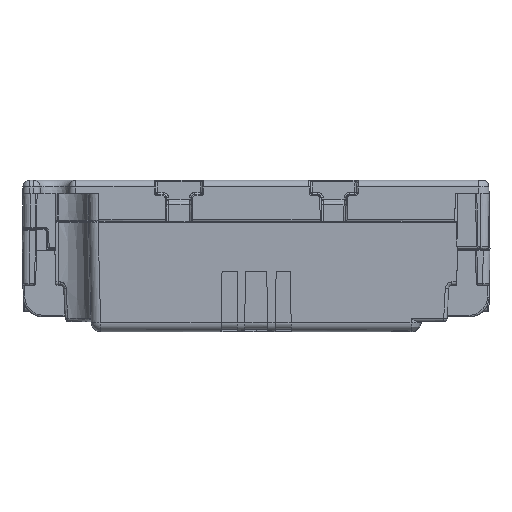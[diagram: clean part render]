
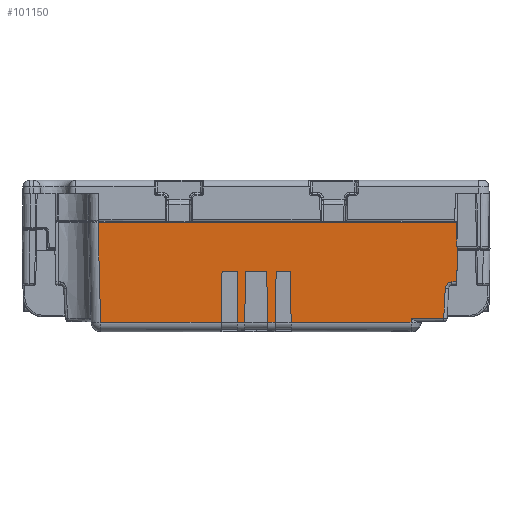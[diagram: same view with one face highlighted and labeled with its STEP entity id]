
A CAD part, left-side view. The second image highlights one B-rep face of the part: STEP entity #101150.
In plain terms, the highlighted planar face has unit normal (-1, 0, -0.026).
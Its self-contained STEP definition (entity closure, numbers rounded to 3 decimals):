
#17351=DIRECTION('',(0.,1.,0.));
#17352=VECTOR('',#17351,3.145);
#17353=CARTESIAN_POINT('',(-15.384,24.213,
1.442));
#17354=LINE('',#17353,#17352);
#17355=DIRECTION('',(0.026,0.017,-1.));
#17356=VECTOR('',#17355,7.641);
#17357=CARTESIAN_POINT('',(-15.384,27.358,
1.442));
#17358=LINE('',#17357,#17356);
#17359=DIRECTION('',(0.026,0.017,-1.));
#17360=VECTOR('',#17359,7.641);
#17361=CARTESIAN_POINT('',(-15.384,30.858,
1.442));
#17362=LINE('',#17361,#17360);
#17363=DIRECTION('',(-0.026,0.026,0.999));
#17364=VECTOR('',#17363,14.842);
#17365=CARTESIAN_POINT('',(-15.184,48.91,
-6.195));
#17366=LINE('',#17365,#17364);
#17367=DIRECTION('',(0.,-1.,0.));
#17368=VECTOR('',#17367,53.315);
#17369=CARTESIAN_POINT('',(-15.572,49.298,
8.637));
#17370=LINE('',#17369,#17368);
#17371=DIRECTION('',(0.026,-0.017,-1.));
#17372=VECTOR('',#17371,4.074);
#17373=CARTESIAN_POINT('',(-15.572,-4.017,
8.637));
#17374=LINE('',#17373,#17372);
#17375=CARTESIAN_POINT('',(-15.466,-4.088,
4.565));
#17376=CARTESIAN_POINT('',(-15.465,-4.117,
4.527));
#17377=CARTESIAN_POINT('',(-15.463,-4.131,
4.485));
#17378=CARTESIAN_POINT('',(-15.462,-4.13,
4.438));
#17380=DIRECTION('',(0.026,0.017,-1.));
#17381=VECTOR('',#17380,4.612);
#17382=CARTESIAN_POINT('',(-15.462,-4.13,
4.438));
#17383=LINE('',#17382,#17381);
#17384=CARTESIAN_POINT('',(-15.341,-3.333,
-0.171));
#17385=CARTESIAN_POINT('',(-15.341,-3.246,
-0.171));
#17386=CARTESIAN_POINT('',(-15.341,-3.08,
-0.193));
#17387=CARTESIAN_POINT('',(-15.338,-2.842,
-0.288));
#17388=CARTESIAN_POINT('',(-15.335,-2.637,
-0.438));
#17389=CARTESIAN_POINT('',(-15.329,-2.476,
-0.635));
#17390=CARTESIAN_POINT('',(-15.323,-2.369,
-0.867));
#17391=CARTESIAN_POINT('',(-15.319,-2.339,
-1.033));
#17392=CARTESIAN_POINT('',(-15.317,-2.334,
-1.119));
#17394=DIRECTION('',(0.026,0.052,-0.998));
#17395=VECTOR('',#17394,4.46);
#17396=CARTESIAN_POINT('',(-15.317,-2.334,
-1.119));
#17397=LINE('',#17396,#17395);
#17398=DIRECTION('',(0.026,0.026,-0.999));
#17399=VECTOR('',#17398,0.624);
#17400=CARTESIAN_POINT('',(-15.2,2.744,
-5.571));
#17401=LINE('',#17400,#17399);
#17402=DIRECTION('',(0.,1.,0.));
#17403=VECTOR('',#17402,2.1);
#17404=CARTESIAN_POINT('',(-15.384,20.713,
1.442));
#17405=LINE('',#17404,#17403);
#17406=DIRECTION('',(0.026,0.017,-1.));
#17407=VECTOR('',#17406,7.64);
#17408=CARTESIAN_POINT('',(-15.384,22.813,
1.442));
#17409=LINE('',#17408,#17407);
#24794=DIRECTION('',(0.,-1.,0.));
#24795=VECTOR('',#24794,17.819);
#24796=CARTESIAN_POINT('',(-15.184,20.579,
-6.195));
#24797=LINE('',#24796,#24795);
#24812=DIRECTION('',(0.026,-0.017,-1.));
#24813=VECTOR('',#24812,7.64);
#24814=CARTESIAN_POINT('',(-15.384,20.713,
1.442));
#24815=LINE('',#24814,#24813);
#24859=DIRECTION('',(0.,-1.,0.));
#24860=VECTOR('',#24859,1.133);
#24861=CARTESIAN_POINT('',(-15.184,24.079,
-6.195));
#24862=LINE('',#24861,#24860);
#25056=DIRECTION('',(0.026,-0.017,-1.));
#25057=VECTOR('',#25056,7.64);
#25058=CARTESIAN_POINT('',(-15.384,24.213,
1.442));
#25059=LINE('',#25058,#25057);
#25660=DIRECTION('',(0.,-1.,0.));
#25661=VECTOR('',#25660,4.845);
#25662=CARTESIAN_POINT('',(-15.2,2.744,
-5.571));
#25663=LINE('',#25662,#25661);
#25705=DIRECTION('',(0.,-1.,0.));
#25706=VECTOR('',#25705,0.717);
#25707=CARTESIAN_POINT('',(-15.341,-3.333,
-0.171));
#25708=LINE('',#25707,#25706);
#29980=DIRECTION('',(0.,-1.,0.));
#29981=VECTOR('',#29980,17.919);
#29982=CARTESIAN_POINT('',(-15.184,48.91,
-6.195));
#29983=LINE('',#29982,#29981);
#29996=DIRECTION('',(0.,-1.,0.));
#29997=VECTOR('',#29996,2.257);
#29998=CARTESIAN_POINT('',(-15.384,30.858,
1.442));
#29999=LINE('',#29998,#29997);
#30017=DIRECTION('',(0.026,0.,-1.));
#30018=VECTOR('',#30017,7.64);
#30019=CARTESIAN_POINT('',(-15.384,28.6,
1.442));
#30020=LINE('',#30019,#30018);
#30074=DIRECTION('',(0.,-1.,0.));
#30075=VECTOR('',#30074,1.11);
#30076=CARTESIAN_POINT('',(-15.184,28.6,
-6.195));
#30077=LINE('',#30076,#30075);
#65234=CARTESIAN_POINT('',(-15.384,30.858,
1.442));
#65235=CARTESIAN_POINT('',(-15.384,28.6,
1.442));
#65236=VERTEX_POINT('',#65234);
#65237=VERTEX_POINT('',#65235);
#65246=CARTESIAN_POINT('',(-15.384,20.713,
1.442));
#65247=CARTESIAN_POINT('',(-15.384,22.813,
1.442));
#65248=VERTEX_POINT('',#65246);
#65249=VERTEX_POINT('',#65247);
#65258=CARTESIAN_POINT('',(-15.384,27.358,
1.442));
#65259=VERTEX_POINT('',#65258);
#65260=CARTESIAN_POINT('',(-15.384,24.213,
1.442));
#65261=VERTEX_POINT('',#65260);
#65307=CARTESIAN_POINT('',(-15.572,49.298,
8.637));
#65308=CARTESIAN_POINT('',(-15.572,-4.017,
8.637));
#65309=VERTEX_POINT('',#65307);
#65310=VERTEX_POINT('',#65308);
#65312=CARTESIAN_POINT('',(-15.184,27.491,
-6.195));
#65313=VERTEX_POINT('',#65312);
#65314=CARTESIAN_POINT('',(-15.184,28.6,
-6.195));
#65315=VERTEX_POINT('',#65314);
#65316=CARTESIAN_POINT('',(-15.184,30.991,
-6.195));
#65317=VERTEX_POINT('',#65316);
#65318=CARTESIAN_POINT('',(-15.184,48.91,
-6.195));
#65319=VERTEX_POINT('',#65318);
#65320=CARTESIAN_POINT('',(-15.466,-4.088,
4.565));
#65321=VERTEX_POINT('',#65320);
#65322=VERTEX_POINT('',#17378);
#65323=CARTESIAN_POINT('',(-15.341,-4.05,
-0.171));
#65324=VERTEX_POINT('',#65323);
#65325=CARTESIAN_POINT('',(-15.341,-3.333,
-0.171));
#65326=VERTEX_POINT('',#65325);
#65327=VERTEX_POINT('',#17392);
#65328=CARTESIAN_POINT('',(-15.2,-2.101,
-5.571));
#65329=VERTEX_POINT('',#65328);
#65330=CARTESIAN_POINT('',(-15.2,2.744,
-5.571));
#65331=VERTEX_POINT('',#65330);
#65332=CARTESIAN_POINT('',(-15.184,2.76,
-6.195));
#65333=VERTEX_POINT('',#65332);
#65334=CARTESIAN_POINT('',(-15.184,20.579,
-6.195));
#65335=VERTEX_POINT('',#65334);
#65336=CARTESIAN_POINT('',(-15.184,22.946,
-6.195));
#65337=VERTEX_POINT('',#65336);
#65338=CARTESIAN_POINT('',(-15.184,24.079,
-6.195));
#65339=VERTEX_POINT('',#65338);
#101099=CARTESIAN_POINT('',(-15.578,27.789,
8.842));
#101100=DIRECTION('',(-1.,0.,-0.026));
#101101=DIRECTION('',(0.,-1.,0.));
#101102=AXIS2_PLACEMENT_3D('',#101099,#101100,#101101);
#101103=PLANE('',#101102);
#101105=ORIENTED_EDGE('',*,*,#101104,.T.);
#101107=ORIENTED_EDGE('',*,*,#101106,.T.);
#101109=ORIENTED_EDGE('',*,*,#101108,.F.);
#101111=ORIENTED_EDGE('',*,*,#101110,.F.);
#101113=ORIENTED_EDGE('',*,*,#101112,.F.);
#101115=ORIENTED_EDGE('',*,*,#101114,.T.);
#101117=ORIENTED_EDGE('',*,*,#101116,.F.);
#101118=ORIENTED_EDGE('',*,*,#101067,.T.);
#101119=ORIENTED_EDGE('',*,*,#95727,.T.);
#101121=ORIENTED_EDGE('',*,*,#101120,.T.);
#101123=ORIENTED_EDGE('',*,*,#101122,.T.);
#101125=ORIENTED_EDGE('',*,*,#101124,.T.);
#101127=ORIENTED_EDGE('',*,*,#101126,.F.);
#101129=ORIENTED_EDGE('',*,*,#101128,.T.);
#101131=ORIENTED_EDGE('',*,*,#101130,.T.);
#101133=ORIENTED_EDGE('',*,*,#101132,.F.);
#101135=ORIENTED_EDGE('',*,*,#101134,.T.);
#101137=ORIENTED_EDGE('',*,*,#101136,.F.);
#101139=ORIENTED_EDGE('',*,*,#101138,.F.);
#101141=ORIENTED_EDGE('',*,*,#101140,.T.);
#101143=ORIENTED_EDGE('',*,*,#101142,.T.);
#101145=ORIENTED_EDGE('',*,*,#101144,.F.);
#101147=ORIENTED_EDGE('',*,*,#101146,.F.);
#101148=EDGE_LOOP('',(#101105,#101107,#101109,#101111,#101113,#101115,#101117,
#101118,#101119,#101121,#101123,#101125,#101127,#101129,#101131,#101133,#101135,
#101137,#101139,#101141,#101143,#101145,#101147));
#101149=FACE_OUTER_BOUND('',#101148,.F.);
#101150=ADVANCED_FACE('',(#101149),#101103,.T.);
#17379=B_SPLINE_CURVE_WITH_KNOTS('',3,(#17375,#17376,#17377,#17378),
.UNSPECIFIED.,.F.,.F.,(4,4),(0.,1.),.UNSPECIFIED.);
#17393=B_SPLINE_CURVE_WITH_KNOTS('',3,(#17384,#17385,#17386,#17387,#17388,
#17389,#17390,#17391,#17392),.UNSPECIFIED.,.F.,.F.,(4,1,1,1,1,1,4),(0.,
0.167,0.333,0.5,0.667,0.833,
1.),.UNSPECIFIED.);
#95727=EDGE_CURVE('',#65309,#65310,#17370,.T.);
#101067=EDGE_CURVE('',#65319,#65309,#17366,.T.);
#101104=EDGE_CURVE('',#65261,#65259,#17354,.T.);
#101106=EDGE_CURVE('',#65259,#65313,#17358,.T.);
#101108=EDGE_CURVE('',#65315,#65313,#30077,.T.);
#101110=EDGE_CURVE('',#65237,#65315,#30020,.T.);
#101112=EDGE_CURVE('',#65236,#65237,#29999,.T.);
#101114=EDGE_CURVE('',#65236,#65317,#17362,.T.);
#101116=EDGE_CURVE('',#65319,#65317,#29983,.T.);
#101120=EDGE_CURVE('',#65310,#65321,#17374,.T.);
#101122=EDGE_CURVE('',#65321,#65322,#17379,.T.);
#101124=EDGE_CURVE('',#65322,#65324,#17383,.T.);
#101126=EDGE_CURVE('',#65326,#65324,#25708,.T.);
#101128=EDGE_CURVE('',#65326,#65327,#17393,.T.);
#101130=EDGE_CURVE('',#65327,#65329,#17397,.T.);
#101132=EDGE_CURVE('',#65331,#65329,#25663,.T.);
#101134=EDGE_CURVE('',#65331,#65333,#17401,.T.);
#101136=EDGE_CURVE('',#65335,#65333,#24797,.T.);
#101138=EDGE_CURVE('',#65248,#65335,#24815,.T.);
#101140=EDGE_CURVE('',#65248,#65249,#17405,.T.);
#101142=EDGE_CURVE('',#65249,#65337,#17409,.T.);
#101144=EDGE_CURVE('',#65339,#65337,#24862,.T.);
#101146=EDGE_CURVE('',#65261,#65339,#25059,.T.);
